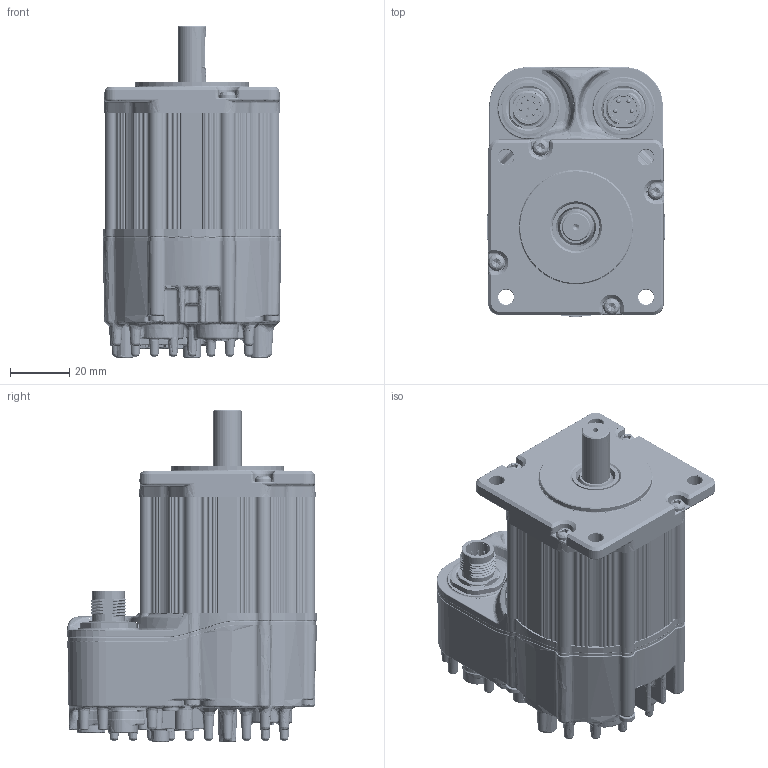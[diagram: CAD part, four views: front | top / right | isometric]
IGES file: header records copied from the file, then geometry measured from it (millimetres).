
Start section: SolidWorks IGES file using analytic representation for surfaces
Global section: file name: C:\TeknicPDM\EtherPath CPM-S\EtherPath CPM-S Customer Files\CPM-S Customer Models\CPMS 231x.IGS; native system: SolidWorks 2020; preprocessor: SolidWorks 2020; author: mike_berezny; date: 230808.140956; units: inch
Bounding box: 60.26 x 84.12 x 111.81 mm (x, y, z)
Surface area: 110668.6 mm2 (no closed solid volume)
Topology: 0 solids, 0 shells, 11323 faces, 101692 edges, 101112 vertices
Faces by surface type: bspline 5870, revolution 5453
